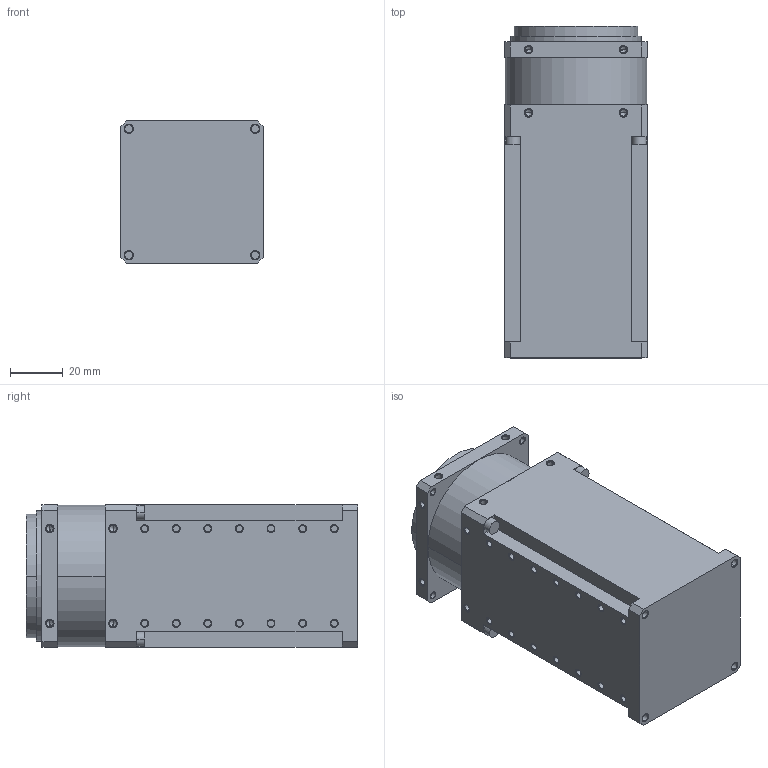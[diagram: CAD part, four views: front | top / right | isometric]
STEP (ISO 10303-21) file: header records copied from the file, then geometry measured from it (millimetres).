
FILE_DESCRIPTION((''),'2;1');
FILE_NAME('H54-200-S500-R','2013-01-25T',('hoya'),(''),'PRO/ENGINEER BY PARAMETRIC TECHNOLOGY CORPORATION, 2011330','PRO/ENGINEER BY PARAMETRIC TECHNOLOGY CORPORATION, 2011330','');
FILE_SCHEMA(('CONFIG_CONTROL_DESIGN'));
Length unit declared in the file: millimetre
Products named in the file (1): H54-200-S500-R
Bounding box: 54 x 126 x 54 mm (x, y, z)
Volume: 334381 mm3; surface area: 40139.4 mm2
Topology: 1 solids, 57 shells, 549 faces, 1318 edges, 836 vertices
Faces by surface type: cylinder 253, cone 160, plane 136
Entity records: 15843 total; most frequent: DIRECTION 3098, CARTESIAN_POINT 2676, ORIENTED_EDGE 2316, AXIS2_PLACEMENT_3D 1282, EDGE_CURVE 1270, VERTEX_POINT 836, CIRCLE 732, EDGE_LOOP 678
